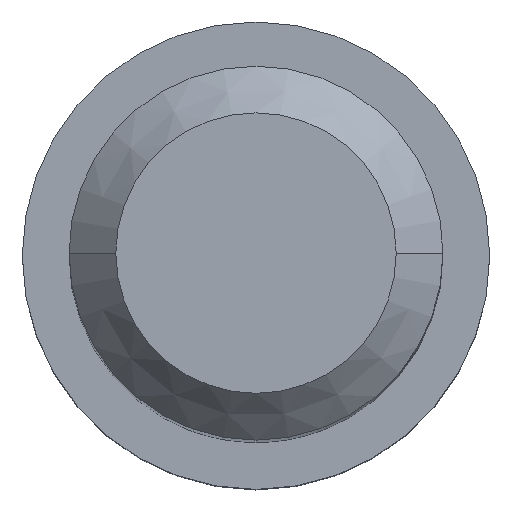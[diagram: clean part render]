
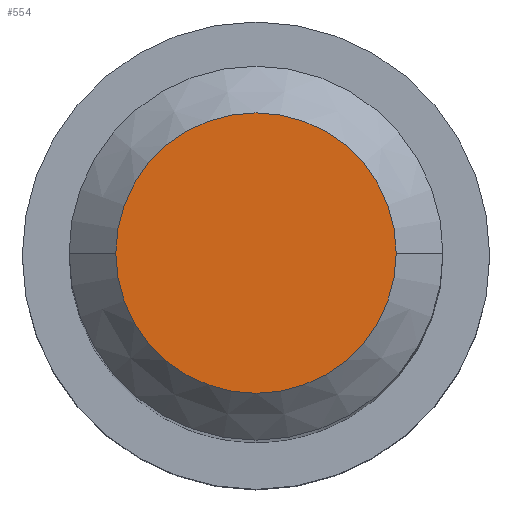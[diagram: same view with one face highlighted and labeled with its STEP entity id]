
A CAD part, top view. The second image highlights one B-rep face of the part: STEP entity #554.
In plain terms, the highlighted planar face has unit normal (0, 0, 1).
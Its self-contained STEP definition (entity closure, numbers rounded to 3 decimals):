
#48 = CARTESIAN_POINT ( 'NONE',  ( -3., 0., 45. ) ) ;
#117 = CIRCLE ( 'NONE', #574, 3. ) ;
#146 = AXIS2_PLACEMENT_3D ( 'NONE', #235, #441, #194 ) ;
#179 = EDGE_CURVE ( 'NONE', #524, #208, #390, .T. ) ;
#188 = CARTESIAN_POINT ( 'NONE',  ( 0., 0., 45. ) ) ;
#194 = DIRECTION ( 'NONE',  ( 1., 0., 0. ) ) ;
#208 = VERTEX_POINT ( 'NONE', #48 ) ;
#233 = PLANE ( 'NONE',  #647 ) ;
#235 = CARTESIAN_POINT ( 'NONE',  ( 0., 0., 45. ) ) ;
#246 = ORIENTED_EDGE ( 'NONE', *, *, #440, .T. ) ;
#323 = EDGE_LOOP ( 'NONE', ( #246, #556 ) ) ;
#390 = CIRCLE ( 'NONE', #146, 3. ) ;
#391 = DIRECTION ( 'NONE',  ( 0., 0., 1. ) ) ;
#416 = CARTESIAN_POINT ( 'NONE',  ( 0., 0., 45. ) ) ;
#440 = EDGE_CURVE ( 'NONE', #208, #524, #117, .T. ) ;
#441 = DIRECTION ( 'NONE',  ( 0., 0., 1. ) ) ;
#465 = DIRECTION ( 'NONE',  ( 1., 0., 0. ) ) ;
#483 = FACE_OUTER_BOUND ( 'NONE', #323, .T. ) ;
#524 = VERTEX_POINT ( 'NONE', #531 ) ;
#531 = CARTESIAN_POINT ( 'NONE',  ( 3., 0., 45. ) ) ;
#554 = ADVANCED_FACE ( 'NONE', ( #483 ), #233, .T. ) ;
#556 = ORIENTED_EDGE ( 'NONE', *, *, #179, .T. ) ;
#574 = AXIS2_PLACEMENT_3D ( 'NONE', #416, #617, #465 ) ;
#590 = DIRECTION ( 'NONE',  ( 1., 0., 0. ) ) ;
#617 = DIRECTION ( 'NONE',  ( 0., 0., 1. ) ) ;
#647 = AXIS2_PLACEMENT_3D ( 'NONE', #188, #391, #590 ) ;
